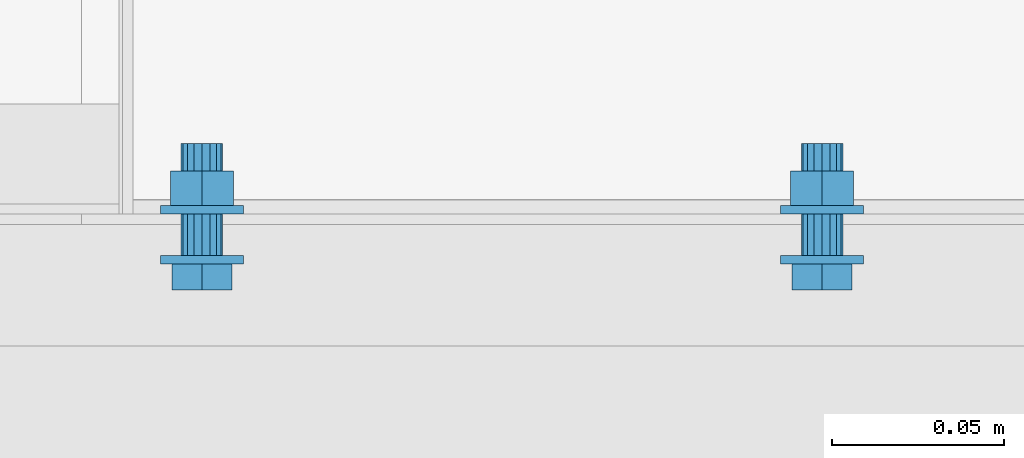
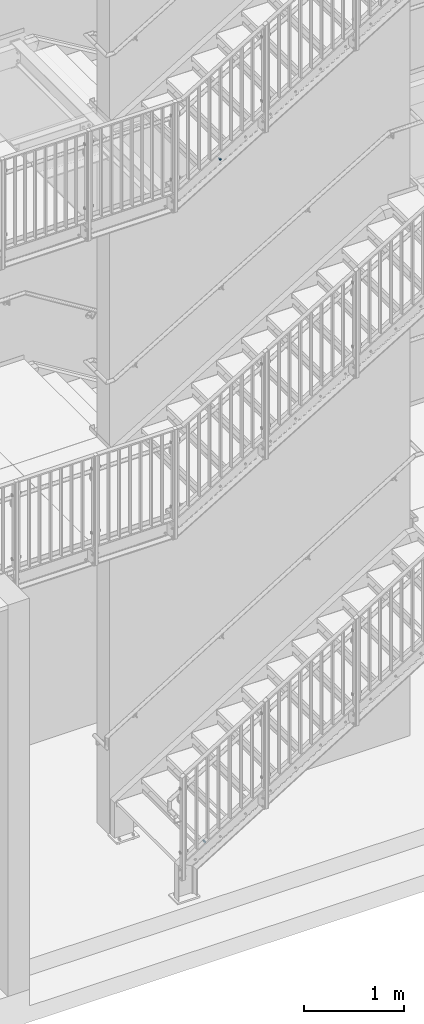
# One storey, part 201 of 410: 2 mechanical fasteners.
"""IFC2X3 building model written with IfcOpenShell, lengths in millimetres."""

from ifc_helpers import new_model, entity, si_unit, converted_unit, origin_with_axes, place, context, project, spatial, faceted_brep, element, save


model = new_model("IFC2X3")

# Units and contexts
model_context = context("Model", 3, precision=1e-09, world=origin_with_axes())
ifc_project = project(units=[si_unit("LENGTHUNIT", "METRE", prefix="MILLI"), si_unit("AREAUNIT", "SQUARE_METRE"), si_unit("VOLUMEUNIT", "CUBIC_METRE"), converted_unit("PLANEANGLEUNIT", "DEGREE", entity("IfcPlaneAngleMeasure", 0.01745329), si_unit("PLANEANGLEUNIT", "RADIAN"), dimensions=[0, 0, 0, 0, 0, 0, 0])], contexts=[model_context])

# Site, building, storey
site_placement = place(None, origin_with_axes())
site = spatial("IfcSite", under=ifc_project, at=site_placement, Name="mKR Teilneubau & Sanierung BA1 - Ostfildern", CompositionType="ELEMENT")
building_placement = place(site_placement, origin_with_axes())
building = spatial("IfcBuilding", under=site, at=building_placement, Name="Struktur 1", CompositionType="ELEMENT")
storey_placement = place(building_placement, origin_with_axes())
storey = spatial("IfcBuildingStorey", under=building, at=storey_placement, Name="Default Storey", CompositionType="ELEMENT", Elevation=0.0)

# Mechanical fasteners
mechanical_fastener_1_placement = place(None, origin_with_axes())
element("IfcMechanicalFastener", 1, at=mechanical_fastener_1_placement, inside=storey, ObjectType="Bolt", NominalDiameter=12.0, NominalLength=35.0, context=model_context, shape_type="Brep", body=[
    faceted_brep([(-1212.0, 15508.499999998, 4120.0), (-1212.0, 15510.999999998, 4120.0), (-1211.769423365, 15510.999999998, 4117.658916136), (-1211.769423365, 15508.499999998, 4117.658916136), (-1211.08655439, 15510.999999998, 4115.407798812), (-1211.08655439, 15508.499999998, 4115.407798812), (-1209.977635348, 15510.999999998, 4113.333157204), (-1209.977635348, 15508.499999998, 4113.333157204), (-1208.485281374, 15510.999999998, 4111.514718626), (-1208.485281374, 15508.499999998, 4111.514718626), (-1206.666842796, 15510.999999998, 4110.022364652), (-1206.666842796, 15508.499999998, 4110.022364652), (-1204.592201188, 15510.999999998, 4108.91344561), (-1204.592201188, 15508.499999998, 4108.91344561), (-1202.341083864, 15510.999999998, 4108.230576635), (-1202.341083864, 15508.499999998, 4108.230576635), (-1200.0, 15510.999999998, 4108.0), (-1200.0, 15508.499999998, 4108.0), (-1197.658916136, 15510.999999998, 4108.230576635), (-1197.658916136, 15508.499999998, 4108.230576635), (-1195.407798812, 15510.999999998, 4108.91344561), (-1195.407798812, 15508.499999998, 4108.91344561), (-1193.333157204, 15510.999999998, 4110.022364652), (-1193.333157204, 15508.499999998, 4110.022364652), (-1191.514718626, 15510.999999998, 4111.514718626), (-1191.514718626, 15508.499999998, 4111.514718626), (-1190.022364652, 15510.999999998, 4113.333157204), (-1190.022364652, 15508.499999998, 4113.333157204), (-1188.91344561, 15510.999999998, 4115.407798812), (-1188.91344561, 15508.499999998, 4115.407798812), (-1188.230576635, 15510.999999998, 4117.658916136), (-1188.230576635, 15508.499999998, 4117.658916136), (-1188.0, 15510.999999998, 4120.0), (-1188.0, 15508.499999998, 4120.0), (-1188.230576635, 15510.999999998, 4122.341083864), (-1188.230576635, 15508.499999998, 4122.341083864), (-1188.91344561, 15510.999999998, 4124.592201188), (-1188.91344561, 15508.499999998, 4124.592201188), (-1190.022364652, 15510.999999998, 4126.666842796), (-1190.022364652, 15508.499999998, 4126.666842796), (-1191.514718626, 15510.999999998, 4128.485281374), (-1191.514718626, 15508.499999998, 4128.485281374), (-1193.333157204, 15510.999999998, 4129.977635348), (-1193.333157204, 15508.499999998, 4129.977635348), (-1195.407798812, 15510.999999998, 4131.08655439), (-1195.407798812, 15508.499999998, 4131.08655439), (-1197.658916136, 15510.999999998, 4131.769423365), (-1197.658916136, 15508.499999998, 4131.769423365), (-1200.0, 15510.999999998, 4132.0), (-1200.0, 15508.499999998, 4132.0), (-1202.341083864, 15510.999999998, 4131.769423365), (-1202.341083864, 15508.499999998, 4131.769423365), (-1204.592201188, 15510.999999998, 4131.08655439), (-1204.592201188, 15508.499999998, 4131.08655439), (-1206.666842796, 15510.999999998, 4129.977635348), (-1206.666842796, 15508.499999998, 4129.977635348), (-1208.485281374, 15510.999999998, 4128.485281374), (-1208.485281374, 15508.499999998, 4128.485281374), (-1209.977635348, 15510.999999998, 4126.666842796), (-1209.977635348, 15508.499999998, 4126.666842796), (-1211.08655439, 15510.999999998, 4124.592201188), (-1211.08655439, 15508.499999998, 4124.592201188), (-1211.769423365, 15510.999999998, 4122.341083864), (-1211.769423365, 15508.499999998, 4122.341083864)], [[[0, 1, 2, 3]], [[3, 2, 4, 5]], [[5, 4, 6, 7]], [[7, 6, 8, 9]], [[9, 8, 10, 11]], [[11, 10, 12, 13]], [[13, 12, 14, 15]], [[15, 14, 16, 17]], [[17, 16, 18, 19]], [[19, 18, 20, 21]], [[21, 20, 22, 23]], [[23, 22, 24, 25]], [[25, 24, 26, 27]], [[27, 26, 28, 29]], [[29, 28, 30, 31]], [[31, 30, 32, 33]], [[33, 32, 34, 35]], [[35, 34, 36, 37]], [[37, 36, 38, 39]], [[39, 38, 40, 41]], [[41, 40, 42, 43]], [[43, 42, 44, 45]], [[45, 44, 46, 47]], [[47, 46, 48, 49]], [[49, 48, 50, 51]], [[51, 50, 52, 53]], [[53, 52, 54, 55]], [[55, 54, 56, 57]], [[57, 56, 58, 59]], [[59, 58, 60, 61]], [[61, 60, 62, 63]], [[63, 62, 1, 0]], [[0, 3, 5, 7, 9, 11, 13, 15, 17, 19, 21, 23, 25, 27, 29, 31, 33, 35, 37, 39, 41, 43, 45, 47, 49, 51, 53, 55, 57, 59, 61, 63]], [[1, 62, 60, 58, 56, 54, 52, 50, 48, 46, 44, 42, 40, 38, 36, 34, 32, 30, 28, 26, 24, 22, 20, 18, 16, 14, 12, 10, 8, 6, 4, 2]]]),
    faceted_brep([(-1191.326755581, 15508.499999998, 4114.9925), (-1191.326755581, 15500.999999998, 4114.9925), (-1200.0, 15500.999999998, 4109.985), (-1200.0, 15508.499999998, 4109.985), (-1208.673244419, 15500.999999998, 4114.9925), (-1208.673244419, 15508.499999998, 4114.9925), (-1208.673244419, 15500.999999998, 4125.0075), (-1208.673244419, 15508.499999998, 4125.0075), (-1200.0, 15500.999999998, 4130.015), (-1200.0, 15508.499999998, 4130.015), (-1191.326755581, 15500.999999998, 4125.0075), (-1191.326755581, 15508.499999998, 4125.0075)], [[[0, 1, 2, 3]], [[3, 2, 4, 5]], [[5, 4, 6, 7]], [[7, 6, 8, 9]], [[9, 8, 10, 11]], [[11, 10, 1, 0]], [[4, 2, 1, 10, 8, 6]], [[0, 3, 5, 7, 9, 11]]]),
    faceted_brep([(-1206.0, 15510.999999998, 4120.0), (-1206.0, 15522.999999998, 4120.0), (-1205.543277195, 15522.999999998, 4117.703899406), (-1205.543277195, 15510.999999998, 4117.703899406), (-1204.242640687, 15522.999999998, 4115.757359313), (-1204.242640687, 15510.999999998, 4115.757359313), (-1202.296100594, 15522.999999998, 4114.456722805), (-1202.296100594, 15510.999999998, 4114.456722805), (-1200.0, 15522.999999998, 4114.0), (-1200.0, 15510.999999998, 4114.0), (-1197.703899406, 15522.999999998, 4114.456722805), (-1197.703899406, 15510.999999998, 4114.456722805), (-1195.757359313, 15522.999999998, 4115.757359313), (-1195.757359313, 15510.999999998, 4115.757359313), (-1194.456722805, 15522.999999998, 4117.703899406), (-1194.456722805, 15510.999999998, 4117.703899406), (-1194.0, 15522.999999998, 4120.0), (-1194.0, 15510.999999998, 4120.0), (-1194.456722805, 15522.999999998, 4122.296100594), (-1194.456722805, 15510.999999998, 4122.296100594), (-1195.757359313, 15522.999999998, 4124.242640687), (-1195.757359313, 15510.999999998, 4124.242640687), (-1197.703899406, 15522.999999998, 4125.543277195), (-1197.703899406, 15510.999999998, 4125.543277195), (-1200.0, 15522.999999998, 4126.0), (-1200.0, 15510.999999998, 4126.0), (-1202.296100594, 15522.999999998, 4125.543277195), (-1202.296100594, 15510.999999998, 4125.543277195), (-1204.242640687, 15522.999999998, 4124.242640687), (-1204.242640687, 15510.999999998, 4124.242640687), (-1205.543277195, 15522.999999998, 4122.296100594), (-1205.543277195, 15510.999999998, 4122.296100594)], [[[0, 1, 2, 3]], [[3, 2, 4, 5]], [[5, 4, 6, 7]], [[7, 6, 8, 9]], [[9, 8, 10, 11]], [[11, 10, 12, 13]], [[13, 12, 14, 15]], [[15, 14, 16, 17]], [[17, 16, 18, 19]], [[19, 18, 20, 21]], [[21, 20, 22, 23]], [[23, 22, 24, 25]], [[25, 24, 26, 27]], [[27, 26, 28, 29]], [[29, 28, 30, 31]], [[31, 30, 1, 0]], [[0, 3, 5, 7, 9, 11, 13, 15, 17, 19, 21, 23, 25, 27, 29, 31]], [[1, 30, 28, 26, 24, 22, 20, 18, 16, 14, 12, 10, 8, 6, 4, 2]]]),
    faceted_brep([(-1212.0, 15522.999999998, 4120.0), (-1212.0, 15525.499999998, 4120.0), (-1211.769423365, 15525.499999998, 4117.658916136), (-1211.769423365, 15522.999999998, 4117.658916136), (-1211.08655439, 15525.499999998, 4115.407798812), (-1211.08655439, 15522.999999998, 4115.407798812), (-1209.977635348, 15525.499999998, 4113.333157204), (-1209.977635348, 15522.999999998, 4113.333157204), (-1208.485281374, 15525.499999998, 4111.514718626), (-1208.485281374, 15522.999999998, 4111.514718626), (-1206.666842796, 15525.499999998, 4110.022364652), (-1206.666842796, 15522.999999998, 4110.022364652), (-1204.592201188, 15525.499999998, 4108.91344561), (-1204.592201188, 15522.999999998, 4108.91344561), (-1202.341083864, 15525.499999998, 4108.230576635), (-1202.341083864, 15522.999999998, 4108.230576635), (-1200.0, 15525.499999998, 4108.0), (-1200.0, 15522.999999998, 4108.0), (-1197.658916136, 15525.499999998, 4108.230576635), (-1197.658916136, 15522.999999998, 4108.230576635), (-1195.407798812, 15525.499999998, 4108.91344561), (-1195.407798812, 15522.999999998, 4108.91344561), (-1193.333157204, 15525.499999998, 4110.022364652), (-1193.333157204, 15522.999999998, 4110.022364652), (-1191.514718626, 15525.499999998, 4111.514718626), (-1191.514718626, 15522.999999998, 4111.514718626), (-1190.022364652, 15525.499999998, 4113.333157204), (-1190.022364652, 15522.999999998, 4113.333157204), (-1188.91344561, 15525.499999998, 4115.407798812), (-1188.91344561, 15522.999999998, 4115.407798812), (-1188.230576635, 15525.499999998, 4117.658916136), (-1188.230576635, 15522.999999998, 4117.658916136), (-1188.0, 15525.499999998, 4120.0), (-1188.0, 15522.999999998, 4120.0), (-1188.230576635, 15525.499999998, 4122.341083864), (-1188.230576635, 15522.999999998, 4122.341083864), (-1188.91344561, 15525.499999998, 4124.592201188), (-1188.91344561, 15522.999999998, 4124.592201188), (-1190.022364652, 15525.499999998, 4126.666842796), (-1190.022364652, 15522.999999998, 4126.666842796), (-1191.514718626, 15525.499999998, 4128.485281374), (-1191.514718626, 15522.999999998, 4128.485281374), (-1193.333157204, 15525.499999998, 4129.977635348), (-1193.333157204, 15522.999999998, 4129.977635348), (-1195.407798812, 15525.499999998, 4131.08655439), (-1195.407798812, 15522.999999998, 4131.08655439), (-1197.658916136, 15525.499999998, 4131.769423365), (-1197.658916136, 15522.999999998, 4131.769423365), (-1200.0, 15525.499999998, 4132.0), (-1200.0, 15522.999999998, 4132.0), (-1202.341083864, 15525.499999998, 4131.769423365), (-1202.341083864, 15522.999999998, 4131.769423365), (-1204.592201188, 15525.499999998, 4131.08655439), (-1204.592201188, 15522.999999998, 4131.08655439), (-1206.666842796, 15525.499999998, 4129.977635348), (-1206.666842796, 15522.999999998, 4129.977635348), (-1208.485281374, 15525.499999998, 4128.485281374), (-1208.485281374, 15522.999999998, 4128.485281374), (-1209.977635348, 15525.499999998, 4126.666842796), (-1209.977635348, 15522.999999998, 4126.666842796), (-1211.08655439, 15525.499999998, 4124.592201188), (-1211.08655439, 15522.999999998, 4124.592201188), (-1211.769423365, 15525.499999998, 4122.341083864), (-1211.769423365, 15522.999999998, 4122.341083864)], [[[0, 1, 2, 3]], [[3, 2, 4, 5]], [[5, 4, 6, 7]], [[7, 6, 8, 9]], [[9, 8, 10, 11]], [[11, 10, 12, 13]], [[13, 12, 14, 15]], [[15, 14, 16, 17]], [[17, 16, 18, 19]], [[19, 18, 20, 21]], [[21, 20, 22, 23]], [[23, 22, 24, 25]], [[25, 24, 26, 27]], [[27, 26, 28, 29]], [[29, 28, 30, 31]], [[31, 30, 32, 33]], [[33, 32, 34, 35]], [[35, 34, 36, 37]], [[37, 36, 38, 39]], [[39, 38, 40, 41]], [[41, 40, 42, 43]], [[43, 42, 44, 45]], [[45, 44, 46, 47]], [[47, 46, 48, 49]], [[49, 48, 50, 51]], [[51, 50, 52, 53]], [[53, 52, 54, 55]], [[55, 54, 56, 57]], [[57, 56, 58, 59]], [[59, 58, 60, 61]], [[61, 60, 62, 63]], [[63, 62, 1, 0]], [[0, 3, 5, 7, 9, 11, 13, 15, 17, 19, 21, 23, 25, 27, 29, 31, 33, 35, 37, 39, 41, 43, 45, 47, 49, 51, 53, 55, 57, 59, 61, 63]], [[1, 62, 60, 58, 56, 54, 52, 50, 48, 46, 44, 42, 40, 38, 36, 34, 32, 30, 28, 26, 24, 22, 20, 18, 16, 14, 12, 10, 8, 6, 4, 2]]]),
    faceted_brep([(-1190.86343199, 15535.499999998, 4114.725), (-1190.86343199, 15525.499999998, 4114.725), (-1200.0, 15525.499999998, 4109.45), (-1200.0, 15535.499999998, 4109.45), (-1209.13656801, 15525.499999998, 4114.725), (-1209.13656801, 15535.499999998, 4114.725), (-1209.13656801, 15525.499999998, 4125.275), (-1209.13656801, 15535.499999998, 4125.275), (-1200.0, 15525.499999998, 4130.55), (-1200.0, 15535.499999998, 4130.55), (-1190.86343199, 15525.499999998, 4125.275), (-1190.86343199, 15535.499999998, 4125.275)], [[[0, 1, 2, 3]], [[3, 2, 4, 5]], [[5, 4, 6, 7]], [[7, 6, 8, 9]], [[9, 8, 10, 11]], [[11, 10, 1, 0]], [[4, 2, 1, 10, 8, 6]], [[0, 3, 5, 7, 9, 11]]]),
    faceted_brep([(-1206.0, 15535.499999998, 4120.0), (-1206.0, 15543.499999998, 4120.0), (-1205.543277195, 15543.499999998, 4117.703899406), (-1205.543277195, 15535.499999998, 4117.703899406), (-1204.242640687, 15543.499999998, 4115.757359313), (-1204.242640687, 15535.499999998, 4115.757359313), (-1202.296100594, 15543.499999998, 4114.456722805), (-1202.296100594, 15535.499999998, 4114.456722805), (-1200.0, 15543.499999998, 4114.0), (-1200.0, 15535.499999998, 4114.0), (-1197.703899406, 15543.499999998, 4114.456722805), (-1197.703899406, 15535.499999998, 4114.456722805), (-1195.757359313, 15543.499999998, 4115.757359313), (-1195.757359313, 15535.499999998, 4115.757359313), (-1194.456722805, 15543.499999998, 4117.703899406), (-1194.456722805, 15535.499999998, 4117.703899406), (-1194.0, 15543.499999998, 4120.0), (-1194.0, 15535.499999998, 4120.0), (-1194.456722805, 15543.499999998, 4122.296100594), (-1194.456722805, 15535.499999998, 4122.296100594), (-1195.757359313, 15543.499999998, 4124.242640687), (-1195.757359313, 15535.499999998, 4124.242640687), (-1197.703899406, 15543.499999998, 4125.543277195), (-1197.703899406, 15535.499999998, 4125.543277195), (-1200.0, 15543.499999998, 4126.0), (-1200.0, 15535.499999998, 4126.0), (-1202.296100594, 15543.499999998, 4125.543277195), (-1202.296100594, 15535.499999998, 4125.543277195), (-1204.242640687, 15543.499999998, 4124.242640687), (-1204.242640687, 15535.499999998, 4124.242640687), (-1205.543277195, 15543.499999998, 4122.296100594), (-1205.543277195, 15535.499999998, 4122.296100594)], [[[0, 1, 2, 3]], [[3, 2, 4, 5]], [[5, 4, 6, 7]], [[7, 6, 8, 9]], [[9, 8, 10, 11]], [[11, 10, 12, 13]], [[13, 12, 14, 15]], [[15, 14, 16, 17]], [[17, 16, 18, 19]], [[19, 18, 20, 21]], [[21, 20, 22, 23]], [[23, 22, 24, 25]], [[25, 24, 26, 27]], [[27, 26, 28, 29]], [[29, 28, 30, 31]], [[31, 30, 1, 0]], [[0, 3, 5, 7, 9, 11, 13, 15, 17, 19, 21, 23, 25, 27, 29, 31]], [[1, 30, 28, 26, 24, 22, 20, 18, 16, 14, 12, 10, 8, 6, 4, 2]]]),
])
mechanical_fastener_2_placement = place(None, origin_with_axes())
element("IfcMechanicalFastener", 2, at=mechanical_fastener_2_placement, inside=storey, ObjectType="Bolt", NominalDiameter=12.0, NominalLength=35.0, context=model_context, shape_type="Brep", body=[
    faceted_brep([(-1392.0, 15508.499999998, -4167.4), (-1392.0, 15510.999999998, -4167.4), (-1391.769423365, 15510.999999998, -4169.741083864), (-1391.769423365, 15508.499999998, -4169.741083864), (-1391.08655439, 15510.999999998, -4171.992201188), (-1391.08655439, 15508.499999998, -4171.992201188), (-1389.977635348, 15510.999999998, -4174.066842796), (-1389.977635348, 15508.499999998, -4174.066842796), (-1388.485281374, 15510.999999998, -4175.885281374), (-1388.485281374, 15508.499999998, -4175.885281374), (-1386.666842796, 15510.999999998, -4177.377635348), (-1386.666842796, 15508.499999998, -4177.377635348), (-1384.592201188, 15510.999999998, -4178.48655439), (-1384.592201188, 15508.499999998, -4178.48655439), (-1382.341083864, 15510.999999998, -4179.169423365), (-1382.341083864, 15508.499999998, -4179.169423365), (-1380.0, 15510.999999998, -4179.4), (-1380.0, 15508.499999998, -4179.4), (-1377.658916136, 15510.999999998, -4179.169423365), (-1377.658916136, 15508.499999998, -4179.169423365), (-1375.407798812, 15510.999999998, -4178.48655439), (-1375.407798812, 15508.499999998, -4178.48655439), (-1373.333157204, 15510.999999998, -4177.377635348), (-1373.333157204, 15508.499999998, -4177.377635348), (-1371.514718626, 15510.999999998, -4175.885281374), (-1371.514718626, 15508.499999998, -4175.885281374), (-1370.022364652, 15510.999999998, -4174.066842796), (-1370.022364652, 15508.499999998, -4174.066842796), (-1368.91344561, 15510.999999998, -4171.992201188), (-1368.91344561, 15508.499999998, -4171.992201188), (-1368.230576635, 15510.999999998, -4169.741083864), (-1368.230576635, 15508.499999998, -4169.741083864), (-1368.0, 15510.999999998, -4167.4), (-1368.0, 15508.499999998, -4167.4), (-1368.230576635, 15510.999999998, -4165.058916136), (-1368.230576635, 15508.499999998, -4165.058916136), (-1368.91344561, 15510.999999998, -4162.807798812), (-1368.91344561, 15508.499999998, -4162.807798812), (-1370.022364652, 15510.999999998, -4160.733157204), (-1370.022364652, 15508.499999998, -4160.733157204), (-1371.514718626, 15510.999999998, -4158.914718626), (-1371.514718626, 15508.499999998, -4158.914718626), (-1373.333157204, 15510.999999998, -4157.422364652), (-1373.333157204, 15508.499999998, -4157.422364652), (-1375.407798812, 15510.999999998, -4156.31344561), (-1375.407798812, 15508.499999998, -4156.31344561), (-1377.658916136, 15510.999999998, -4155.630576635), (-1377.658916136, 15508.499999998, -4155.630576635), (-1380.0, 15510.999999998, -4155.4), (-1380.0, 15508.499999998, -4155.4), (-1382.341083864, 15510.999999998, -4155.630576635), (-1382.341083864, 15508.499999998, -4155.630576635), (-1384.592201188, 15510.999999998, -4156.31344561), (-1384.592201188, 15508.499999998, -4156.31344561), (-1386.666842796, 15510.999999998, -4157.422364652), (-1386.666842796, 15508.499999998, -4157.422364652), (-1388.485281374, 15510.999999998, -4158.914718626), (-1388.485281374, 15508.499999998, -4158.914718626), (-1389.977635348, 15510.999999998, -4160.733157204), (-1389.977635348, 15508.499999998, -4160.733157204), (-1391.08655439, 15510.999999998, -4162.807798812), (-1391.08655439, 15508.499999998, -4162.807798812), (-1391.769423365, 15510.999999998, -4165.058916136), (-1391.769423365, 15508.499999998, -4165.058916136)], [[[0, 1, 2, 3]], [[3, 2, 4, 5]], [[5, 4, 6, 7]], [[7, 6, 8, 9]], [[9, 8, 10, 11]], [[11, 10, 12, 13]], [[13, 12, 14, 15]], [[15, 14, 16, 17]], [[17, 16, 18, 19]], [[19, 18, 20, 21]], [[21, 20, 22, 23]], [[23, 22, 24, 25]], [[25, 24, 26, 27]], [[27, 26, 28, 29]], [[29, 28, 30, 31]], [[31, 30, 32, 33]], [[33, 32, 34, 35]], [[35, 34, 36, 37]], [[37, 36, 38, 39]], [[39, 38, 40, 41]], [[41, 40, 42, 43]], [[43, 42, 44, 45]], [[45, 44, 46, 47]], [[47, 46, 48, 49]], [[49, 48, 50, 51]], [[51, 50, 52, 53]], [[53, 52, 54, 55]], [[55, 54, 56, 57]], [[57, 56, 58, 59]], [[59, 58, 60, 61]], [[61, 60, 62, 63]], [[63, 62, 1, 0]], [[0, 3, 5, 7, 9, 11, 13, 15, 17, 19, 21, 23, 25, 27, 29, 31, 33, 35, 37, 39, 41, 43, 45, 47, 49, 51, 53, 55, 57, 59, 61, 63]], [[1, 62, 60, 58, 56, 54, 52, 50, 48, 46, 44, 42, 40, 38, 36, 34, 32, 30, 28, 26, 24, 22, 20, 18, 16, 14, 12, 10, 8, 6, 4, 2]]]),
    faceted_brep([(-1371.326755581, 15508.499999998, -4172.4075), (-1371.326755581, 15500.999999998, -4172.4075), (-1380.0, 15500.999999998, -4177.415), (-1380.0, 15508.499999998, -4177.415), (-1388.673244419, 15500.999999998, -4172.4075), (-1388.673244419, 15508.499999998, -4172.4075), (-1388.673244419, 15500.999999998, -4162.3925), (-1388.673244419, 15508.499999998, -4162.3925), (-1380.0, 15500.999999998, -4157.385), (-1380.0, 15508.499999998, -4157.385), (-1371.326755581, 15500.999999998, -4162.3925), (-1371.326755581, 15508.499999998, -4162.3925)], [[[0, 1, 2, 3]], [[3, 2, 4, 5]], [[5, 4, 6, 7]], [[7, 6, 8, 9]], [[9, 8, 10, 11]], [[11, 10, 1, 0]], [[4, 2, 1, 10, 8, 6]], [[0, 3, 5, 7, 9, 11]]]),
    faceted_brep([(-1386.0, 15510.999999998, -4167.4), (-1386.0, 15522.999999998, -4167.4), (-1385.543277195, 15522.999999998, -4169.696100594), (-1385.543277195, 15510.999999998, -4169.696100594), (-1384.242640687, 15522.999999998, -4171.642640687), (-1384.242640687, 15510.999999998, -4171.642640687), (-1382.296100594, 15522.999999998, -4172.943277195), (-1382.296100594, 15510.999999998, -4172.943277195), (-1380.0, 15522.999999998, -4173.4), (-1380.0, 15510.999999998, -4173.4), (-1377.703899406, 15522.999999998, -4172.943277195), (-1377.703899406, 15510.999999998, -4172.943277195), (-1375.757359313, 15522.999999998, -4171.642640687), (-1375.757359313, 15510.999999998, -4171.642640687), (-1374.456722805, 15522.999999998, -4169.696100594), (-1374.456722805, 15510.999999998, -4169.696100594), (-1374.0, 15522.999999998, -4167.4), (-1374.0, 15510.999999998, -4167.4), (-1374.456722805, 15522.999999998, -4165.103899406), (-1374.456722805, 15510.999999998, -4165.103899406), (-1375.757359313, 15522.999999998, -4163.157359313), (-1375.757359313, 15510.999999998, -4163.157359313), (-1377.703899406, 15522.999999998, -4161.856722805), (-1377.703899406, 15510.999999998, -4161.856722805), (-1380.0, 15522.999999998, -4161.4), (-1380.0, 15510.999999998, -4161.4), (-1382.296100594, 15522.999999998, -4161.856722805), (-1382.296100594, 15510.999999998, -4161.856722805), (-1384.242640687, 15522.999999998, -4163.157359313), (-1384.242640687, 15510.999999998, -4163.157359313), (-1385.543277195, 15522.999999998, -4165.103899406), (-1385.543277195, 15510.999999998, -4165.103899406)], [[[0, 1, 2, 3]], [[3, 2, 4, 5]], [[5, 4, 6, 7]], [[7, 6, 8, 9]], [[9, 8, 10, 11]], [[11, 10, 12, 13]], [[13, 12, 14, 15]], [[15, 14, 16, 17]], [[17, 16, 18, 19]], [[19, 18, 20, 21]], [[21, 20, 22, 23]], [[23, 22, 24, 25]], [[25, 24, 26, 27]], [[27, 26, 28, 29]], [[29, 28, 30, 31]], [[31, 30, 1, 0]], [[0, 3, 5, 7, 9, 11, 13, 15, 17, 19, 21, 23, 25, 27, 29, 31]], [[1, 30, 28, 26, 24, 22, 20, 18, 16, 14, 12, 10, 8, 6, 4, 2]]]),
    faceted_brep([(-1392.0, 15522.999999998, -4167.4), (-1392.0, 15525.499999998, -4167.4), (-1391.769423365, 15525.499999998, -4169.741083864), (-1391.769423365, 15522.999999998, -4169.741083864), (-1391.08655439, 15525.499999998, -4171.992201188), (-1391.08655439, 15522.999999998, -4171.992201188), (-1389.977635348, 15525.499999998, -4174.066842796), (-1389.977635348, 15522.999999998, -4174.066842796), (-1388.485281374, 15525.499999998, -4175.885281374), (-1388.485281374, 15522.999999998, -4175.885281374), (-1386.666842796, 15525.499999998, -4177.377635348), (-1386.666842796, 15522.999999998, -4177.377635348), (-1384.592201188, 15525.499999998, -4178.48655439), (-1384.592201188, 15522.999999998, -4178.48655439), (-1382.341083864, 15525.499999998, -4179.169423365), (-1382.341083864, 15522.999999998, -4179.169423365), (-1380.0, 15525.499999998, -4179.4), (-1380.0, 15522.999999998, -4179.4), (-1377.658916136, 15525.499999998, -4179.169423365), (-1377.658916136, 15522.999999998, -4179.169423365), (-1375.407798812, 15525.499999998, -4178.48655439), (-1375.407798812, 15522.999999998, -4178.48655439), (-1373.333157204, 15525.499999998, -4177.377635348), (-1373.333157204, 15522.999999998, -4177.377635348), (-1371.514718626, 15525.499999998, -4175.885281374), (-1371.514718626, 15522.999999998, -4175.885281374), (-1370.022364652, 15525.499999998, -4174.066842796), (-1370.022364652, 15522.999999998, -4174.066842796), (-1368.91344561, 15525.499999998, -4171.992201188), (-1368.91344561, 15522.999999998, -4171.992201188), (-1368.230576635, 15525.499999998, -4169.741083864), (-1368.230576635, 15522.999999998, -4169.741083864), (-1368.0, 15525.499999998, -4167.4), (-1368.0, 15522.999999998, -4167.4), (-1368.230576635, 15525.499999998, -4165.058916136), (-1368.230576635, 15522.999999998, -4165.058916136), (-1368.91344561, 15525.499999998, -4162.807798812), (-1368.91344561, 15522.999999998, -4162.807798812), (-1370.022364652, 15525.499999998, -4160.733157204), (-1370.022364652, 15522.999999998, -4160.733157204), (-1371.514718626, 15525.499999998, -4158.914718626), (-1371.514718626, 15522.999999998, -4158.914718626), (-1373.333157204, 15525.499999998, -4157.422364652), (-1373.333157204, 15522.999999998, -4157.422364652), (-1375.407798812, 15525.499999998, -4156.31344561), (-1375.407798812, 15522.999999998, -4156.31344561), (-1377.658916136, 15525.499999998, -4155.630576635), (-1377.658916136, 15522.999999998, -4155.630576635), (-1380.0, 15525.499999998, -4155.4), (-1380.0, 15522.999999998, -4155.4), (-1382.341083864, 15525.499999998, -4155.630576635), (-1382.341083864, 15522.999999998, -4155.630576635), (-1384.592201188, 15525.499999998, -4156.31344561), (-1384.592201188, 15522.999999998, -4156.31344561), (-1386.666842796, 15525.499999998, -4157.422364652), (-1386.666842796, 15522.999999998, -4157.422364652), (-1388.485281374, 15525.499999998, -4158.914718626), (-1388.485281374, 15522.999999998, -4158.914718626), (-1389.977635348, 15525.499999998, -4160.733157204), (-1389.977635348, 15522.999999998, -4160.733157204), (-1391.08655439, 15525.499999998, -4162.807798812), (-1391.08655439, 15522.999999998, -4162.807798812), (-1391.769423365, 15525.499999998, -4165.058916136), (-1391.769423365, 15522.999999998, -4165.058916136)], [[[0, 1, 2, 3]], [[3, 2, 4, 5]], [[5, 4, 6, 7]], [[7, 6, 8, 9]], [[9, 8, 10, 11]], [[11, 10, 12, 13]], [[13, 12, 14, 15]], [[15, 14, 16, 17]], [[17, 16, 18, 19]], [[19, 18, 20, 21]], [[21, 20, 22, 23]], [[23, 22, 24, 25]], [[25, 24, 26, 27]], [[27, 26, 28, 29]], [[29, 28, 30, 31]], [[31, 30, 32, 33]], [[33, 32, 34, 35]], [[35, 34, 36, 37]], [[37, 36, 38, 39]], [[39, 38, 40, 41]], [[41, 40, 42, 43]], [[43, 42, 44, 45]], [[45, 44, 46, 47]], [[47, 46, 48, 49]], [[49, 48, 50, 51]], [[51, 50, 52, 53]], [[53, 52, 54, 55]], [[55, 54, 56, 57]], [[57, 56, 58, 59]], [[59, 58, 60, 61]], [[61, 60, 62, 63]], [[63, 62, 1, 0]], [[0, 3, 5, 7, 9, 11, 13, 15, 17, 19, 21, 23, 25, 27, 29, 31, 33, 35, 37, 39, 41, 43, 45, 47, 49, 51, 53, 55, 57, 59, 61, 63]], [[1, 62, 60, 58, 56, 54, 52, 50, 48, 46, 44, 42, 40, 38, 36, 34, 32, 30, 28, 26, 24, 22, 20, 18, 16, 14, 12, 10, 8, 6, 4, 2]]]),
    faceted_brep([(-1370.86343199, 15535.499999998, -4172.675), (-1370.86343199, 15525.499999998, -4172.675), (-1380.0, 15525.499999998, -4177.95), (-1380.0, 15535.499999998, -4177.95), (-1389.13656801, 15525.499999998, -4172.675), (-1389.13656801, 15535.499999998, -4172.675), (-1389.13656801, 15525.499999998, -4162.125), (-1389.13656801, 15535.499999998, -4162.125), (-1380.0, 15525.499999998, -4156.85), (-1380.0, 15535.499999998, -4156.85), (-1370.86343199, 15525.499999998, -4162.125), (-1370.86343199, 15535.499999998, -4162.125)], [[[0, 1, 2, 3]], [[3, 2, 4, 5]], [[5, 4, 6, 7]], [[7, 6, 8, 9]], [[9, 8, 10, 11]], [[11, 10, 1, 0]], [[4, 2, 1, 10, 8, 6]], [[0, 3, 5, 7, 9, 11]]]),
    faceted_brep([(-1386.0, 15535.499999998, -4167.4), (-1386.0, 15543.499999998, -4167.4), (-1385.543277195, 15543.499999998, -4169.696100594), (-1385.543277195, 15535.499999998, -4169.696100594), (-1384.242640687, 15543.499999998, -4171.642640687), (-1384.242640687, 15535.499999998, -4171.642640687), (-1382.296100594, 15543.499999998, -4172.943277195), (-1382.296100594, 15535.499999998, -4172.943277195), (-1380.0, 15543.499999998, -4173.4), (-1380.0, 15535.499999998, -4173.4), (-1377.703899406, 15543.499999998, -4172.943277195), (-1377.703899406, 15535.499999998, -4172.943277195), (-1375.757359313, 15543.499999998, -4171.642640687), (-1375.757359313, 15535.499999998, -4171.642640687), (-1374.456722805, 15543.499999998, -4169.696100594), (-1374.456722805, 15535.499999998, -4169.696100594), (-1374.0, 15543.499999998, -4167.4), (-1374.0, 15535.499999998, -4167.4), (-1374.456722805, 15543.499999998, -4165.103899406), (-1374.456722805, 15535.499999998, -4165.103899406), (-1375.757359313, 15543.499999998, -4163.157359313), (-1375.757359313, 15535.499999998, -4163.157359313), (-1377.703899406, 15543.499999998, -4161.856722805), (-1377.703899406, 15535.499999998, -4161.856722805), (-1380.0, 15543.499999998, -4161.4), (-1380.0, 15535.499999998, -4161.4), (-1382.296100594, 15543.499999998, -4161.856722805), (-1382.296100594, 15535.499999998, -4161.856722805), (-1384.242640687, 15543.499999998, -4163.157359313), (-1384.242640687, 15535.499999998, -4163.157359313), (-1385.543277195, 15543.499999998, -4165.103899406), (-1385.543277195, 15535.499999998, -4165.103899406)], [[[0, 1, 2, 3]], [[3, 2, 4, 5]], [[5, 4, 6, 7]], [[7, 6, 8, 9]], [[9, 8, 10, 11]], [[11, 10, 12, 13]], [[13, 12, 14, 15]], [[15, 14, 16, 17]], [[17, 16, 18, 19]], [[19, 18, 20, 21]], [[21, 20, 22, 23]], [[23, 22, 24, 25]], [[25, 24, 26, 27]], [[27, 26, 28, 29]], [[29, 28, 30, 31]], [[31, 30, 1, 0]], [[0, 3, 5, 7, 9, 11, 13, 15, 17, 19, 21, 23, 25, 27, 29, 31]], [[1, 30, 28, 26, 24, 22, 20, 18, 16, 14, 12, 10, 8, 6, 4, 2]]]),
])

save(model, "model.ifc")
